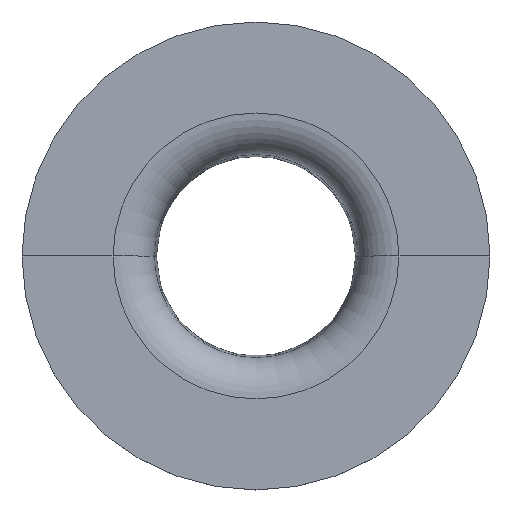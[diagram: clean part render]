
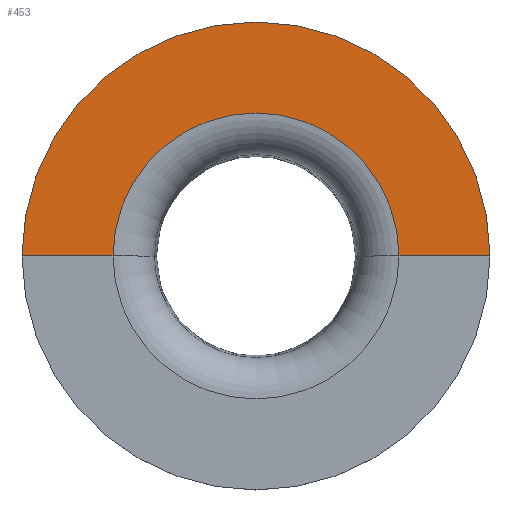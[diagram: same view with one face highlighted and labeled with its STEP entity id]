
A CAD part, top view. The second image highlights one B-rep face of the part: STEP entity #453.
In plain terms, the highlighted planar face has unit normal (0, 0, 1).
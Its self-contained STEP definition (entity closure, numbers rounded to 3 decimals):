
#11=CARTESIAN_POINT('',(54.0,0.0,20.0));
#12=CARTESIAN_POINT('',(-54.0,0.0,20.0));
#13=CARTESIAN_POINT('',(33.0,0.0,20.0));
#14=CARTESIAN_POINT('',(-33.0,0.0,20.0));
#79=CARTESIAN_POINT('',(0.0,0.0,20.0));
#80=DIRECTION('',(0.0,0.0,1.0));
#81=DIRECTION('',(1.0,0.0,0.0));
#82=AXIS2_PLACEMENT_3D('',#79,#80,#81);
#83=CIRCLE('',#82,54.0);
#84=TRIMMED_CURVE('',#83,(#11),(#12),.T.,.CARTESIAN.);
#91=CARTESIAN_POINT('',(0.0,0.0,20.0));
#92=DIRECTION('',(0.0,0.0,1.0));
#93=DIRECTION('',(1.0,0.0,0.0));
#94=AXIS2_PLACEMENT_3D('',#91,#92,#93);
#95=CIRCLE('',#94,33.0);
#96=TRIMMED_CURVE('',#95,(#13),(#14),.T.,.CARTESIAN.);
#161=DIRECTION('',(1.0,0.0,0.0));
#162=VECTOR('',#161,1.0);
#163=LINE('',#13,#162);
#164=DIRECTION('',(1.0,0.0,0.0));
#165=VECTOR('',#164,1.0);
#166=LINE('',#12,#165);
#241=CARTESIAN_POINT('',(0.0,0.0,20.0));
#242=DIRECTION('',(0.0,0.0,1.0));
#243=DIRECTION('',(1.0,0.0,0.0));
#244=AXIS2_PLACEMENT_3D('',#241,#242,#243);
#245=PLANE('',#244);
#291=VERTEX_POINT('',#11);
#292=VERTEX_POINT('',#12);
#293=VERTEX_POINT('',#13);
#294=VERTEX_POINT('',#14);
#309=EDGE_CURVE('',#291,#292,#84,.T.);
#311=EDGE_CURVE('',#293,#294,#96,.T.);
#327=EDGE_CURVE('',#293,#291,#163,.T.);
#328=EDGE_CURVE('',#292,#294,#166,.T.);
#375=ORIENTED_EDGE('',*,*,#309,.T.);
#376=ORIENTED_EDGE('',*,*,#328,.T.);
#377=ORIENTED_EDGE('',*,*,#311,.F.);
#378=ORIENTED_EDGE('',*,*,#327,.T.);
#417=EDGE_LOOP('',(#375,#376,#377,#378));
#435=FACE_OUTER_BOUND('',#417,.T.);
#453=ADVANCED_FACE('',(#435),#245,.T.);
